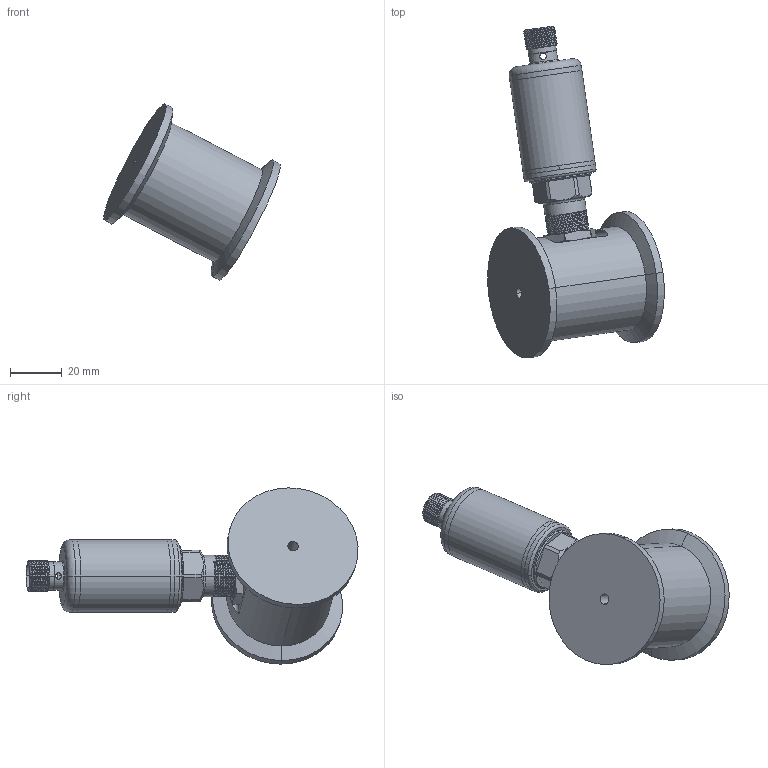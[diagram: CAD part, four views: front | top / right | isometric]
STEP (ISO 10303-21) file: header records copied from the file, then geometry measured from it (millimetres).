
FILE_DESCRIPTION (( 'STEP AP214' ), '1' );
FILE_NAME ('BFW1K04-J.STEP', '2025-11-05T01:26:16', ( '' ), ( '' ), 'SwSTEP 2.0', 'SolidWorks 2023', '' );
FILE_SCHEMA (( 'AUTOMOTIVE_DESIGN' ));
Length unit declared in the file: millimetre
Products named in the file (8): 探头; 壳体; DN4卡盘主体; M16螺母; 连接管; 垫片; BFW1K04-J; 压力变送器
Assembly tree (8 placements, depth 3):
  BFW1K04-J
    压力变送器
      壳体
      垫片
      连接管
      探头
    M16螺母  x2
    DN4卡盘主体
Bounding box: 68 x 127.78 x 67.82 mm (x, y, z)
Volume: 78697.9 mm3; surface area: 31027.5 mm2
Topology: 7 solids, 7 shells, 275 faces, 699 edges, 450 vertices
Faces by surface type: cylinder 136, cone 69, plane 54, torus 8, bspline 8
Entity records: 11610 total; most frequent: CARTESIAN_POINT 5932, ORIENTED_EDGE 1212, DIRECTION 1084, EDGE_CURVE 606, AXIS2_PLACEMENT_3D 435, VERTEX_POINT 389, EDGE_LOOP 273, FACE_OUTER_BOUND 241
